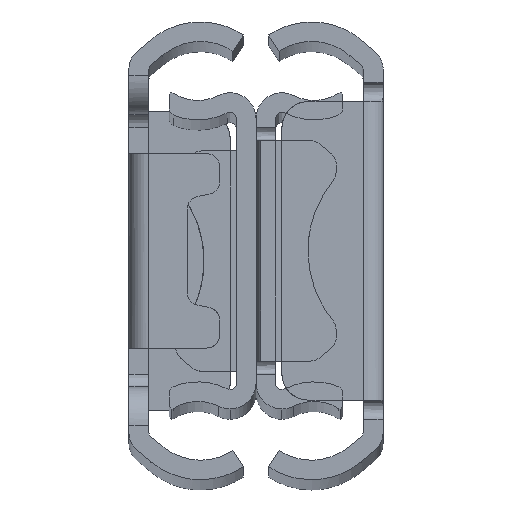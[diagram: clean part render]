
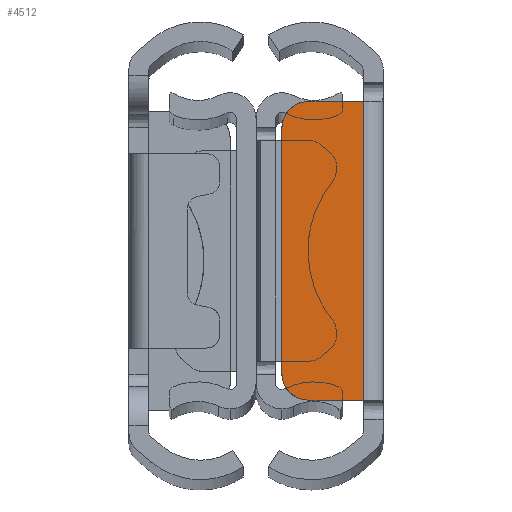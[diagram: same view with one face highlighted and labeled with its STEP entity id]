
A CAD part, top view. The second image highlights one B-rep face of the part: STEP entity #4512.
In plain terms, the highlighted planar face has unit normal (0, 0, 1) as drawn and (0, 0, -1) by its records, which use the part's own axes.
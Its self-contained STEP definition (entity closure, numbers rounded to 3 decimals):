
#10 = CARTESIAN_POINT ( 'NONE',  ( 218.1, -11.5, 50.8 ) ) ;
#29 = CARTESIAN_POINT ( 'NONE',  ( 211.8, -9.5, 50.8 ) ) ;
#263 = B_SPLINE_CURVE_WITH_KNOTS ( 'NONE', 3,
 ( #1420, #6402, #5345, #274 ),
 .UNSPECIFIED., .F., .F.,
 ( 4, 4 ),
 ( 0., 1. ),
 .UNSPECIFIED. ) ;
#274 = CARTESIAN_POINT ( 'NONE',  ( 218.1, 11.5, 50.8 ) ) ;
#402 = B_SPLINE_CURVE_WITH_KNOTS ( 'NONE', 3,
 ( #5746, #3249, #5248, #3316 ),
 .UNSPECIFIED., .F., .F.,
 ( 4, 4 ),
 ( 0., 1. ),
 .UNSPECIFIED. ) ;
#436 = VERTEX_POINT ( 'NONE', #29 ) ;
#571 = B_SPLINE_CURVE_WITH_KNOTS ( 'NONE', 3,
 ( #4186, #4753, #4820, #1282, #3306, #4218, #3242, #1711, #5338, #1678 ),
 .UNSPECIFIED., .F., .F.,
 ( 4, 2, 2, 2, 4 ),
 ( 0., 0.25, 0.5, 0.75, 1. ),
 .UNSPECIFIED. ) ;
#921 = CARTESIAN_POINT ( 'NONE',  ( 215.233, -11.5, 50.8 ) ) ;
#933 = CARTESIAN_POINT ( 'NONE',  ( 211.8, 9.762, 50.8 ) ) ;
#1038 = VERTEX_POINT ( 'NONE', #5357 ) ;
#1136 = ORIENTED_EDGE ( 'NONE', *, *, #1143, .F. ) ;
#1143 = EDGE_CURVE ( 'NONE', #5588, #4917, #1371, .T. ) ;
#1282 = CARTESIAN_POINT ( 'NONE',  ( 212.052, -10.507, 50.8 ) ) ;
#1371 = B_SPLINE_CURVE_WITH_KNOTS ( 'NONE', 3,
 ( #2025, #1956, #2883, #1891, #3481, #3447, #4432, #4930, #933, #4900 ),
 .UNSPECIFIED., .F., .F.,
 ( 4, 2, 2, 2, 4 ),
 ( 0., 0.25, 0.5, 0.75, 1. ),
 .UNSPECIFIED. ) ;
#1394 = CARTESIAN_POINT ( 'NONE',  ( 218.1, 11.5, 50.8 ) ) ;
#1420 = CARTESIAN_POINT ( 'NONE',  ( 218.1, -11.5, 50.8 ) ) ;
#1440 = VERTEX_POINT ( 'NONE', #1394 ) ;
#1613 = CARTESIAN_POINT ( 'NONE',  ( 211.8, 3.167, 50.8 ) ) ;
#1678 = CARTESIAN_POINT ( 'NONE',  ( 213.8, -11.5, 50.8 ) ) ;
#1711 = CARTESIAN_POINT ( 'NONE',  ( 213.277, -11.448, 50.8 ) ) ;
#1891 = CARTESIAN_POINT ( 'NONE',  ( 212.793, 11.248, 50.8 ) ) ;
#1956 = CARTESIAN_POINT ( 'NONE',  ( 213.538, 11.5, 50.8 ) ) ;
#2025 = CARTESIAN_POINT ( 'NONE',  ( 213.8, 11.5, 50.8 ) ) ;
#2272 = VERTEX_POINT ( 'NONE', #6239 ) ;
#2413 = ORIENTED_EDGE ( 'NONE', *, *, #6117, .F. ) ;
#2506 = CARTESIAN_POINT ( 'NONE',  ( 213.8, -11.5, 50.8 ) ) ;
#2576 = CARTESIAN_POINT ( 'NONE',  ( 214.4, 13.74, 50.8 ) ) ;
#2739 = CARTESIAN_POINT ( 'NONE',  ( 211.8, -3.167, 50.8 ) ) ;
#2883 = CARTESIAN_POINT ( 'NONE',  ( 213.277, 11.448, 50.8 ) ) ;
#2904 = FACE_OUTER_BOUND ( 'NONE', #6101, .T. ) ;
#3037 = DIRECTION ( 'NONE',  ( 0., -1., 0. ) ) ;
#3100 = ORIENTED_EDGE ( 'NONE', *, *, #4677, .F. ) ;
#3242 = CARTESIAN_POINT ( 'NONE',  ( 212.793, -11.248, 50.8 ) ) ;
#3249 = CARTESIAN_POINT ( 'NONE',  ( 216.667, 11.5, 50.8 ) ) ;
#3306 = CARTESIAN_POINT ( 'NONE',  ( 212.201, -10.729, 50.8 ) ) ;
#3316 = CARTESIAN_POINT ( 'NONE',  ( 213.8, 11.5, 50.8 ) ) ;
#3426 = CARTESIAN_POINT ( 'NONE',  ( 211.8, 9.5, 50.8 ) ) ;
#3447 = CARTESIAN_POINT ( 'NONE',  ( 212.201, 10.729, 50.8 ) ) ;
#3481 = CARTESIAN_POINT ( 'NONE',  ( 212.571, 11.099, 50.8 ) ) ;
#3573 = EDGE_CURVE ( 'NONE', #1440, #5588, #402, .T. ) ;
#3722 = B_SPLINE_CURVE_WITH_KNOTS ( 'NONE', 3,
 ( #5144, #1613, #2739, #4244 ),
 .UNSPECIFIED., .F., .F.,
 ( 4, 4 ),
 ( 0., 1. ),
 .UNSPECIFIED. ) ;
#3808 = EDGE_CURVE ( 'NONE', #436, #2272, #571, .T. ) ;
#4186 = CARTESIAN_POINT ( 'NONE',  ( 211.8, -9.5, 50.8 ) ) ;
#4218 = CARTESIAN_POINT ( 'NONE',  ( 212.571, -11.099, 50.8 ) ) ;
#4233 = ORIENTED_EDGE ( 'NONE', *, *, #4449, .F. ) ;
#4244 = CARTESIAN_POINT ( 'NONE',  ( 211.8, -9.5, 50.8 ) ) ;
#4390 = B_SPLINE_CURVE_WITH_KNOTS ( 'NONE', 3,
 ( #2506, #921, #4952, #10 ),
 .UNSPECIFIED., .F., .F.,
 ( 4, 4 ),
 ( 0., 1. ),
 .UNSPECIFIED. ) ;
#4432 = CARTESIAN_POINT ( 'NONE',  ( 212.052, 10.507, 50.8 ) ) ;
#4449 = EDGE_CURVE ( 'NONE', #1038, #1440, #263, .T. ) ;
#4512 = ADVANCED_FACE ( 'NONE', ( #2904 ), #4519, .F. ) ;
#4519 = PLANE ( 'NONE',  #5105 ) ;
#4549 = CARTESIAN_POINT ( 'NONE',  ( 213.8, 11.5, 50.8 ) ) ;
#4579 = DIRECTION ( 'NONE',  ( 0., 0., 1. ) ) ;
#4675 = ORIENTED_EDGE ( 'NONE', *, *, #3808, .F. ) ;
#4677 = EDGE_CURVE ( 'NONE', #4917, #436, #3722, .T. ) ;
#4753 = CARTESIAN_POINT ( 'NONE',  ( 211.8, -9.762, 50.8 ) ) ;
#4820 = CARTESIAN_POINT ( 'NONE',  ( 211.852, -10.023, 50.8 ) ) ;
#4900 = CARTESIAN_POINT ( 'NONE',  ( 211.8, 9.5, 50.8 ) ) ;
#4917 = VERTEX_POINT ( 'NONE', #3426 ) ;
#4930 = CARTESIAN_POINT ( 'NONE',  ( 211.852, 10.023, 50.8 ) ) ;
#4952 = CARTESIAN_POINT ( 'NONE',  ( 216.667, -11.5, 50.8 ) ) ;
#5105 = AXIS2_PLACEMENT_3D ( 'NONE', #2576, #4579, #3037 ) ;
#5144 = CARTESIAN_POINT ( 'NONE',  ( 211.8, 9.5, 50.8 ) ) ;
#5248 = CARTESIAN_POINT ( 'NONE',  ( 215.233, 11.5, 50.8 ) ) ;
#5338 = CARTESIAN_POINT ( 'NONE',  ( 213.538, -11.5, 50.8 ) ) ;
#5345 = CARTESIAN_POINT ( 'NONE',  ( 218.1, 3.833, 50.8 ) ) ;
#5357 = CARTESIAN_POINT ( 'NONE',  ( 218.1, -11.5, 50.8 ) ) ;
#5588 = VERTEX_POINT ( 'NONE', #4549 ) ;
#5746 = CARTESIAN_POINT ( 'NONE',  ( 218.1, 11.5, 50.8 ) ) ;
#6101 = EDGE_LOOP ( 'NONE', ( #3100, #1136, #6140, #4233, #2413, #4675 ) ) ;
#6117 = EDGE_CURVE ( 'NONE', #2272, #1038, #4390, .T. ) ;
#6140 = ORIENTED_EDGE ( 'NONE', *, *, #3573, .F. ) ;
#6239 = CARTESIAN_POINT ( 'NONE',  ( 213.8, -11.5, 50.8 ) ) ;
#6402 = CARTESIAN_POINT ( 'NONE',  ( 218.1, -3.833, 50.8 ) ) ;
